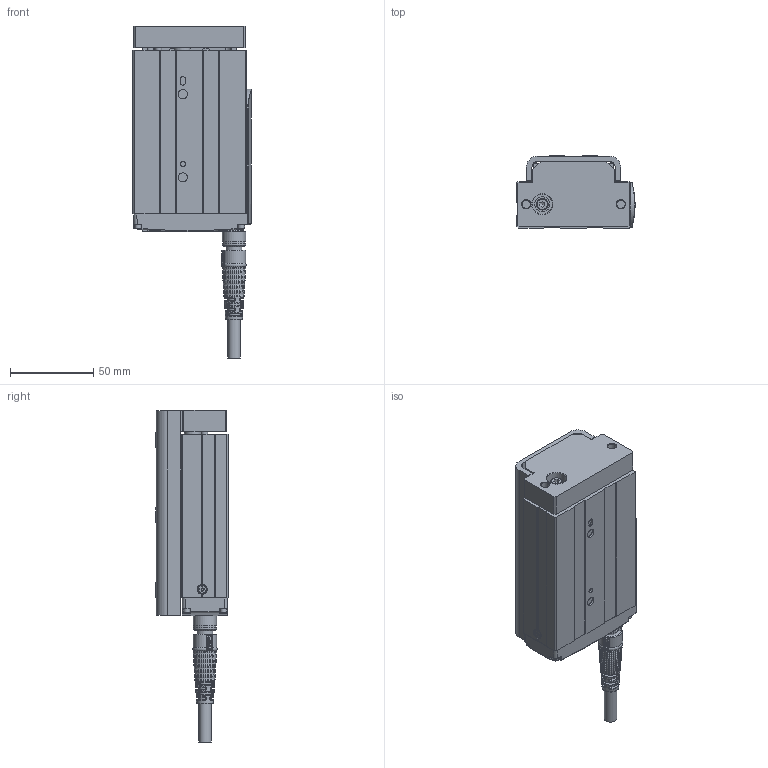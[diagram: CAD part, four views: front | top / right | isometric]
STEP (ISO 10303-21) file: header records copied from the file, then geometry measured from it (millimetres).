
FILE_DESCRIPTION(/* description */ ('STEP AP203'),/* implementation_level */ '2;1');
FILE_NAME(/* name */ 'D:\暫\2025.02.06 CSG 3D\CSG25\CSG25-S50.stp',/* time_stamp */ '2025-02-08T09:49:37+08:00',/* author */ ('T10033'),/* organization */ (''),/* preprocessor_version */ 'ST-DEVELOPER v18.1',/* originating_system */ 'Autodesk Inventor 2020',/* authorisation */ '');
FILE_SCHEMA (('CONFIG_CONTROL_DESIGN'));
Products named in the file (20): CSG25-50行程-180接頭-完整組合; 22024-000496; plain washer 10673 type snl_iso_ISO 10673-4.55-S; 22035-000061(G4ªo¯]); countersunk flat head cross recess screw_iso_ISO 7046-1 - M2.5 x 4 - 
Z - 4N; plain washer 10673 type snl_iso_ISO 10673-2.75-S; socket head cap screw_iso_ISO 4762 M2.5 x 5 - 5N; ©T©wªO-·¥­­¾×ª
O4-M2¤ú; socket head cap screw_iso_ISO 4762 M2.5 x 6 - 6N; socket head cap screw_iso_ISO 4762 M2.5 x 8 - 8N; ¶ì½¦ºÝ»-L¼Ë¦¡
(TOYO); socket head cap screw_iso_ISO 4762 M2 x 12 - 12N; M12 -14PIN  ªOºÝ-²Ä¤@ºØ
³W®æ; CSG25-50¥»Åé3ª©-ªo¤Õ
½Õ¾ã¨¤«×; 12003-000221-­×§ï; CSG25-Carriage-newtype; CNS 3932 - M 4 x 0.7 x 12; CNS 4558 - M5 x 0.8 x 12; Solid1-2; M12-14PIN 線端180度接頭-05中繼線_
MIR
Assembly tree (31 placements, depth 2):
  CSG25-50行程-180接頭-完整組合
    22024-000496
    plain washer 10673 type snl_iso_ISO 10673-4.55-S
    22035-000061(G4ªo¯])
    socket head cap screw_iso_ISO 4762 M2.5 x 8 - 8N  x8
    countersunk flat head cross recess screw_iso_ISO 7046-1 - M2.5 x 4 - 
Z - 4N
    plain washer 10673 type snl_iso_ISO 10673-2.75-S
    socket head cap screw_iso_ISO 4762 M2.5 x 5 - 5N
    ©T©wªO-·¥­­¾×ª
O4-M2¤ú
    socket head cap screw_iso_ISO 4762 M2.5 x 6 - 6N  x2
    ¶ì½¦ºÝ»-L¼Ë¦¡
(TOYO)
    socket head cap screw_iso_ISO 4762 M2 x 12 - 12N  x4
    M12 -14PIN  ªOºÝ-²Ä¤@ºØ
³W®æ
    CSG25-50¥»Åé3ª©-ªo¤Õ
½Õ¾ã¨¤«×
    12003-000221-­×§ï
    CSG25-Carriage-newtype
    CNS 3932 - M 4 x 0.7 x 12
    CNS 4558 - M5 x 0.8 x 12  x2
    Solid1-2
    M12-14PIN 線端180度接頭-05中繼線_
MIR
Bounding box: 71 x 43.5 x 199.6 mm (x, y, z)
Volume: 279764.2 mm3; surface area: 81606.6 mm2
Topology: 48 solids, 52 shells, 2844 faces, 7840 edges, 5227 vertices
Faces by surface type: plane 1352, bspline 656, cylinder 457, cone 286, torus 86, sphere 7
Full cylindrical faces by diameter (mm): 0.6 x14, 0.65 x14, 0.8 x2, 1 x14, 1.6 x4, 2 x6, 2.05 x3, 2.5 x13, 2.75 x1, 2.9 x2, 3 x3, 3.8 x4, 4 x1, 4.134 x8, 4.5 x11, 4.55 x1, 4.7 x1, 4.95 x1, 5 x5, 5.2 x1, 5.3 x2, 5.4 x4, 5.5 x4, 6 x4, 7 x1, 7.5 x1, 8 x1, 8.9 x1, 9 x13, 9.5 x2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
Entity records: 100733 total; most frequent: CARTESIAN_POINT 33083, ORIENTED_EDGE 14453, DIRECTION 12840, EDGE_CURVE 7227, VERTEX_POINT 4841, AXIS2_PLACEMENT_3D 4550, LINE 3740, VECTOR 3740
